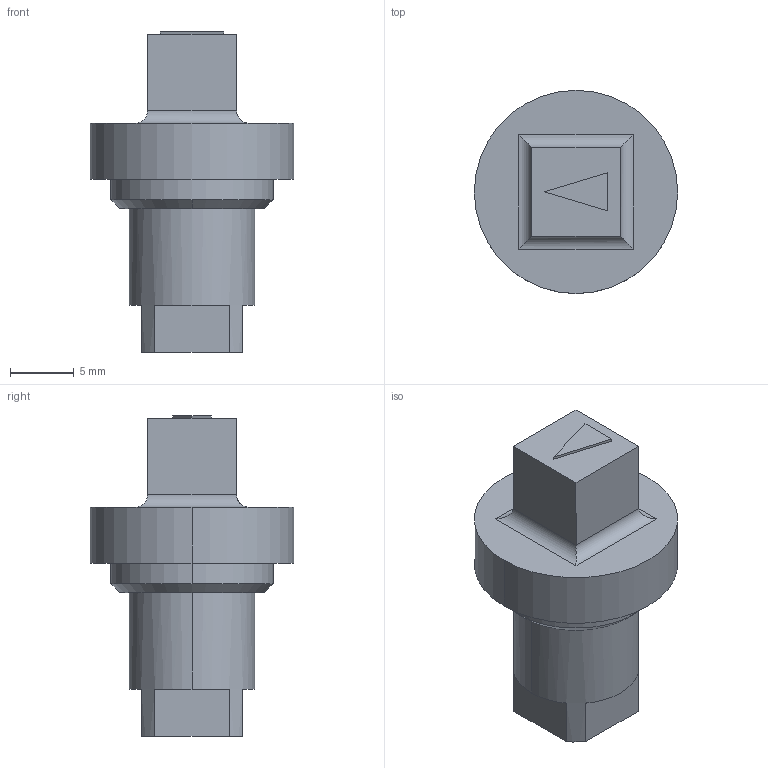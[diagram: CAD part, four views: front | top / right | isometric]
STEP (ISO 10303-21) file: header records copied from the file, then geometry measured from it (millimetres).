
FILE_DESCRIPTION (( 'STEP AP203' ), '1' );
FILE_NAME ('ALIS523_V0.STEP', '2018-03-30T08:42:36', ( '' ), ( '' ), 'SwSTEP 2.0', 'SolidWorks 2017', '' );
FILE_SCHEMA (( 'CONFIG_CONTROL_DESIGN' ));
Length unit declared in the file: millimetre
Products named in the file (3): 1000-215-01SK; ALIS523_V0
Assembly tree (1 placements, depth 2):
  ALIS523_V0
    1000-215-01SK
  1000-215-01SK
Bounding box: 16 x 16 x 25.2 mm (x, y, z)
Volume: 2036 mm3; surface area: 1460.4 mm2
Topology: 1 solids, 1 shells, 38 faces, 87 edges, 56 vertices
Faces by surface type: plane 22, cylinder 12, cone 4
Entity records: 1347 total; most frequent: DIRECTION 199, CARTESIAN_POINT 198, ORIENTED_EDGE 174, EDGE_CURVE 87, AXIS2_PLACEMENT_3D 73, VERTEX_POINT 56, VECTOR 53, LINE 53
